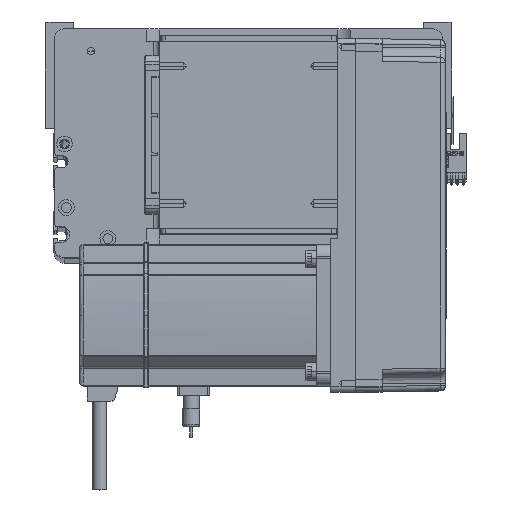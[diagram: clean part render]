
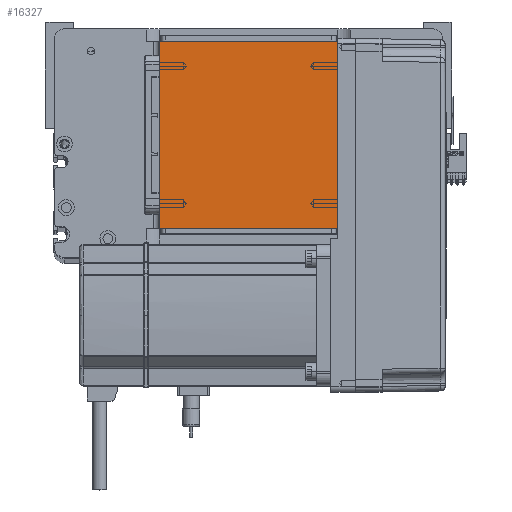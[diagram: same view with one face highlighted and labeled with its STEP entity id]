
A CAD part, top view. The second image highlights one B-rep face of the part: STEP entity #16327.
In plain terms, the highlighted planar face has unit normal (0, 0, 1).
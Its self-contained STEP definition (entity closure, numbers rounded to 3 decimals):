
#1123 = VECTOR ( 'NONE', #6726, 1000. ) ;
#4472 = DIRECTION ( 'NONE',  ( 0., -1., 0. ) ) ;
#5731 = CARTESIAN_POINT ( 'NONE',  ( 50.5, 122., 115. ) ) ;
#6726 = DIRECTION ( 'NONE',  ( -1., 0., 0. ) ) ;
#7869 = DIRECTION ( 'NONE',  ( 0., 0., 1. ) ) ;
#10483 = VERTEX_POINT ( 'NONE', #19904 ) ;
#13083 = CARTESIAN_POINT ( 'NONE',  ( 50.5, 122., 115. ) ) ;
#15504 = FACE_OUTER_BOUND ( 'NONE', #34168, .T. ) ;
#16327 = ADVANCED_FACE ( 'NONE', ( #15504 ), #45534, .T. ) ;
#19885 = EDGE_CURVE ( 'NONE', #46280, #10483, #48914, .T. ) ;
#19904 = CARTESIAN_POINT ( 'NONE',  ( -50.5, 122., 115. ) ) ;
#20590 = CARTESIAN_POINT ( 'NONE',  ( -50.5, 122., 115. ) ) ;
#20735 = VECTOR ( 'NONE', #27236, 1000. ) ;
#23462 = EDGE_CURVE ( 'NONE', #37841, #40594, #31697, .T. ) ;
#24413 = LINE ( 'NONE', #13083, #45633 ) ;
#27108 = CARTESIAN_POINT ( 'NONE',  ( -50.5, 122., 115. ) ) ;
#27236 = DIRECTION ( 'NONE',  ( 1., 0., 0. ) ) ;
#29524 = DIRECTION ( 'NONE',  ( 0., 1., 0. ) ) ;
#30266 = VECTOR ( 'NONE', #4472, 1000. ) ;
#31697 = LINE ( 'NONE', #51915, #20735 ) ;
#32202 = ORIENTED_EDGE ( 'NONE', *, *, #46808, .T. ) ;
#32711 = ORIENTED_EDGE ( 'NONE', *, *, #23462, .T. ) ;
#34168 = EDGE_LOOP ( 'NONE', ( #32202, #32711, #39783, #49605 ) ) ;
#37566 = AXIS2_PLACEMENT_3D ( 'NONE', #45357, #7869, #49494 ) ;
#37841 = VERTEX_POINT ( 'NONE', #49501 ) ;
#39783 = ORIENTED_EDGE ( 'NONE', *, *, #53435, .T. ) ;
#40594 = VERTEX_POINT ( 'NONE', #42934 ) ;
#42934 = CARTESIAN_POINT ( 'NONE',  ( 50.5, 16., 115. ) ) ;
#45357 = CARTESIAN_POINT ( 'NONE',  ( 0., 0., 115. ) ) ;
#45534 = PLANE ( 'NONE',  #37566 ) ;
#45633 = VECTOR ( 'NONE', #29524, 1000. ) ;
#46280 = VERTEX_POINT ( 'NONE', #5731 ) ;
#46808 = EDGE_CURVE ( 'NONE', #10483, #37841, #52179, .T. ) ;
#48914 = LINE ( 'NONE', #27108, #1123 ) ;
#49494 = DIRECTION ( 'NONE',  ( 1., 0., 0. ) ) ;
#49501 = CARTESIAN_POINT ( 'NONE',  ( -50.5, 16., 115. ) ) ;
#49605 = ORIENTED_EDGE ( 'NONE', *, *, #19885, .T. ) ;
#51915 = CARTESIAN_POINT ( 'NONE',  ( -50.5, 16., 115. ) ) ;
#52179 = LINE ( 'NONE', #20590, #30266 ) ;
#53435 = EDGE_CURVE ( 'NONE', #40594, #46280, #24413, .T. ) ;
